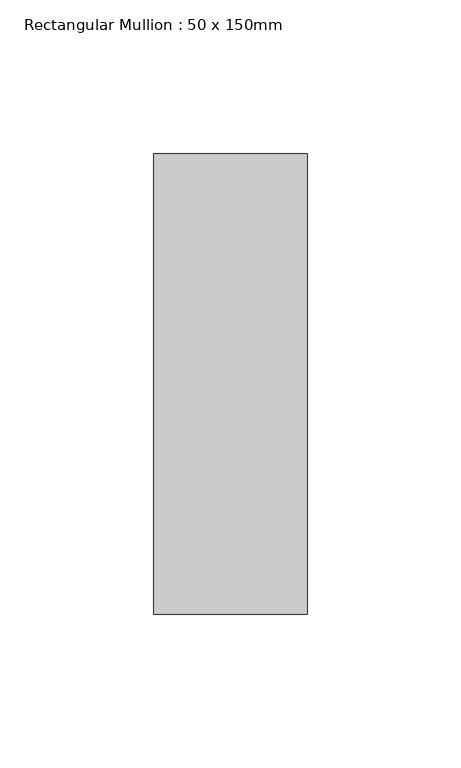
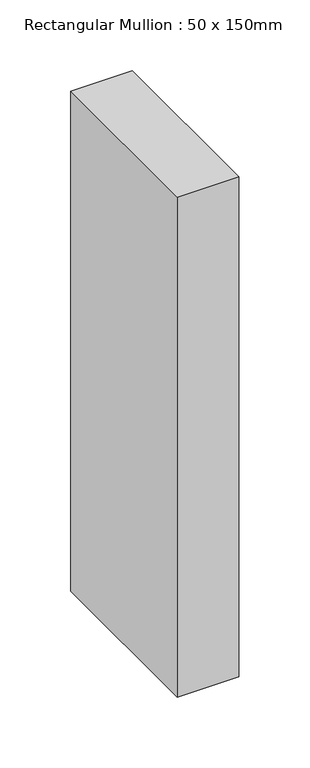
"""IFC4 building model written with IfcOpenShell, lengths in millimetres: member geometry, Rectangular Mullion : 50 x 150mm."""

from ifc_helpers import new_model, si_unit, frame, origin, place, context, project, spatial, polyline, outline, extrude, source, transform, mapped, element, save


def rectangular_mullion_50_x_150mm_ed00b6b8(model_context):
    return source(origin(), model_context, "Body", "SweptSolid", [
        extrude(outline(polyline([(25.0, 75.0), (25.0, -75.0), (-25.0, -75.0), (-25.0, 75.0), (25.0, 75.0)])), frame((0.0, 0.0, -430.0), z_axis=(0.0, 0.0, 1.0), x_axis=(1.0, 0.0, 0.0)), (0.0, 0.0, 1.0), 430.0),
    ])


if __name__ == "__main__":
    model = new_model("IFC4")
    model_context = context("Model", 3, world=origin())
    ifc_project = project(units=[si_unit("LENGTHUNIT", "METRE", prefix="MILLI")], contexts=[model_context])
    site = spatial("IfcSite", under=ifc_project)
    building = spatial("IfcBuilding", under=site)
    placement = place(None, origin())
    rectangular_mullion_50_x_150mm_shape = rectangular_mullion_50_x_150mm_ed00b6b8(model_context)
    element("IfcMember", 1, ObjectType="Rectangular Mullion : 50 x 150mm", at=placement, inside=building, context=model_context, shape_type="MappedRepresentation", body=[
        mapped(rectangular_mullion_50_x_150mm_shape, transform((0.0, 0.0, 0.0), x_axis=(1.0, 0.0, 0.0), y_axis=(0.0, 1.0, 0.0), z_axis=(0.0, 0.0, 1.0))),
    ])
    save(model, "model.ifc")
